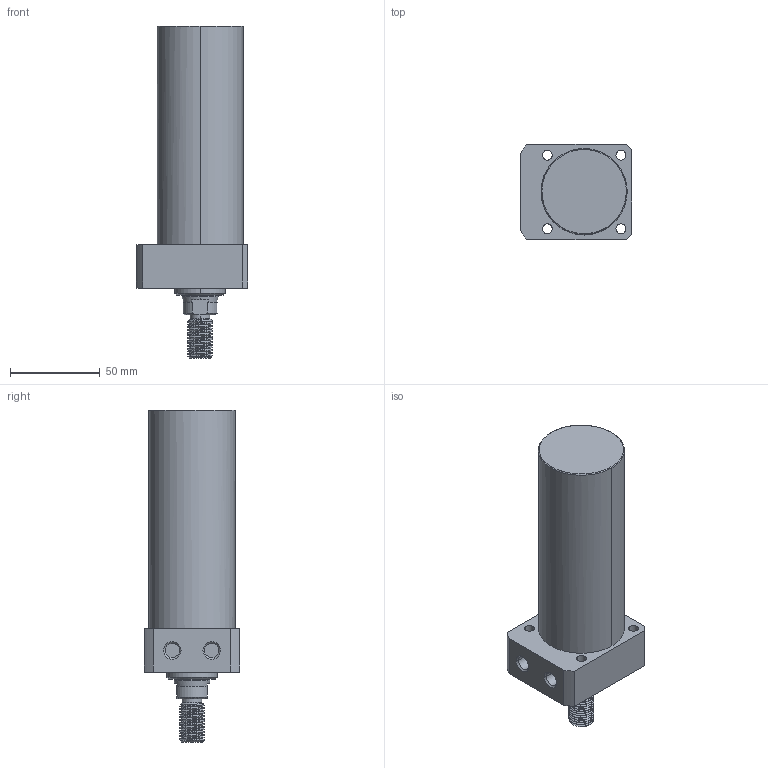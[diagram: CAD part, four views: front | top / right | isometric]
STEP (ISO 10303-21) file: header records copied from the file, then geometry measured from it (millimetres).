
FILE_DESCRIPTION((' '),'2;1');
FILE_NAME( 'TLLR-048CT-095.STEP.stp', '2025-10-24T16:34:36', (' '), ('--- Datakit www.datakit.com---'), ' Datakit CrossCadWare V2024.1 Dec 21 2023', 'Mastercam 2025', ' ');
FILE_SCHEMA(('AUTOMOTIVE_DESIGN { 1 0 10303 214 1 1 1 1 }'));
Length unit declared in the file: millimetre
Products named in the file (1): TLLR-048CT-095
Bounding box: 62 x 53 x 185 mm (x, y, z)
Volume: 303728.9 mm3; surface area: 35043.6 mm2
Topology: 1 solids, 1 shells, 96 faces, 329 edges, 243 vertices
Faces by surface type: cylinder 56, plane 20, cone 16, bspline 2, torus 2
Entity records: 10234 total; most frequent: CARTESIAN_POINT 7338, ORIENTED_EDGE 658, DIRECTION 499, EDGE_CURVE 329, VERTEX_POINT 243, AXIS2_PLACEMENT_3D 204, B_SPLINE_CURVE_WITH_KNOTS 129, EDGE_LOOP 112
